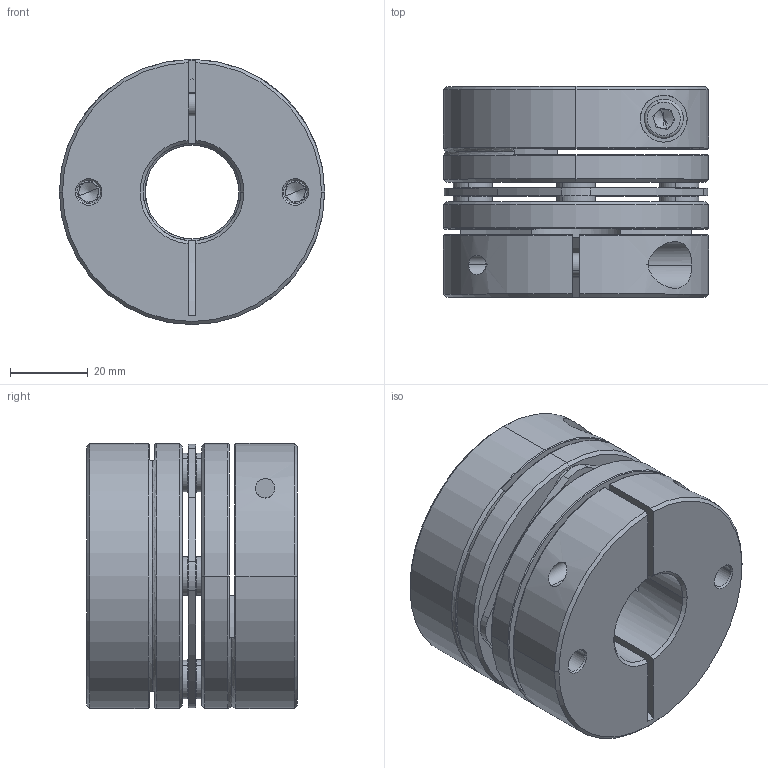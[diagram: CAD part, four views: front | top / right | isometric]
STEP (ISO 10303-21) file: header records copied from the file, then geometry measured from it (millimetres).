
FILE_DESCRIPTION (( 'STEP AP203' ), '1' );
FILE_NAME ('LD1-D68-24-25.STEP', '2021-10-26T08:00:42', ( '' ), ( '' ), 'SwSTEP 2.0', 'SolidWorks 2018', '' );
FILE_SCHEMA (( 'CONFIG_CONTROL_DESIGN' ));
Length unit declared in the file: millimetre
Products named in the file (2): 錨璃101^LD1-D68; LD1-D68-24-25
Assembly tree (1 placements, depth 2):
  LD1-D68-24-25
    錨璃101^LD1-D68
Bounding box: 68 x 54 x 68 mm (x, y, z)
Volume: 143853.6 mm3; surface area: 46201.6 mm2
Topology: 1 solids, 15 shells, 441 faces, 1047 edges, 642 vertices
Faces by surface type: cylinder 161, plane 136, cone 122, torus 22
Entity records: 13321 total; most frequent: CARTESIAN_POINT 2590, DIRECTION 2405, ORIENTED_EDGE 2062, EDGE_CURVE 1031, AXIS2_PLACEMENT_3D 977, VERTEX_POINT 642, CIRCLE 532, EDGE_LOOP 521
